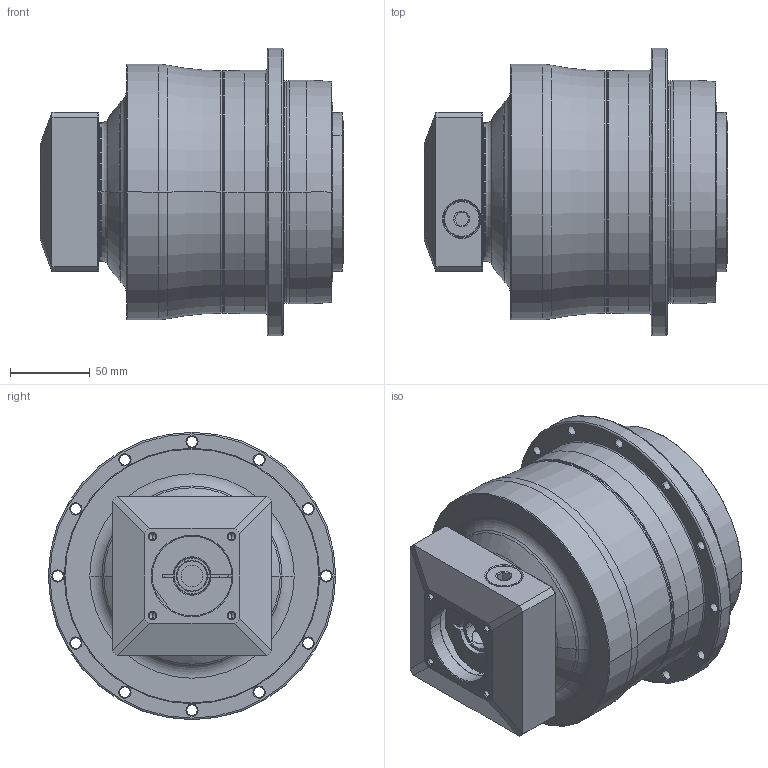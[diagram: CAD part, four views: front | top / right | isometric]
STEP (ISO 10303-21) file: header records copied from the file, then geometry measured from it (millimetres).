
FILE_DESCRIPTION((''),'2;1');
FILE_NAME('AH140_2ST_19-P0409410101_ASM','2016-08-05T',('d01943'),(''),'PRO/ENGINEER BY PARAMETRIC TECHNOLOGY CORPORATION, 2008410','PRO/ENGINEER BY PARAMETRIC TECHNOLOGY CORPORATION, 2008410','');
FILE_SCHEMA(('CONFIG_CONTROL_DESIGN'));
Length unit declared in the file: millimetre
Products named in the file (8): P0278500003; P0359500002; P1317500001; P0409410101; P0503400008; P0912400001; 21711416017; AH140_2ST_19-P0409410101_ASM
Assembly tree (7 placements, depth 2):
  AH140_2ST_19-P0409410101_ASM
    P0278500003
    P0359500002
    P1317500001
    P0409410101
    P0503400008
    P0912400001
    21711416017
Bounding box: 190 x 180 x 180 mm (x, y, z)
Volume: 2660271.7 mm3; surface area: 281230.4 mm2
Topology: 8 solids, 8 shells, 549 faces, 1245 edges, 729 vertices
Faces by surface type: cylinder 206, cone 168, plane 95, torus 64, bspline 16
Entity records: 19814 total; most frequent: CARTESIAN_POINT 7262, DIRECTION 2831, ORIENTED_EDGE 2398, EDGE_CURVE 1199, AXIS2_PLACEMENT_3D 1193, VERTEX_POINT 729, EDGE_LOOP 650, CIRCLE 645
